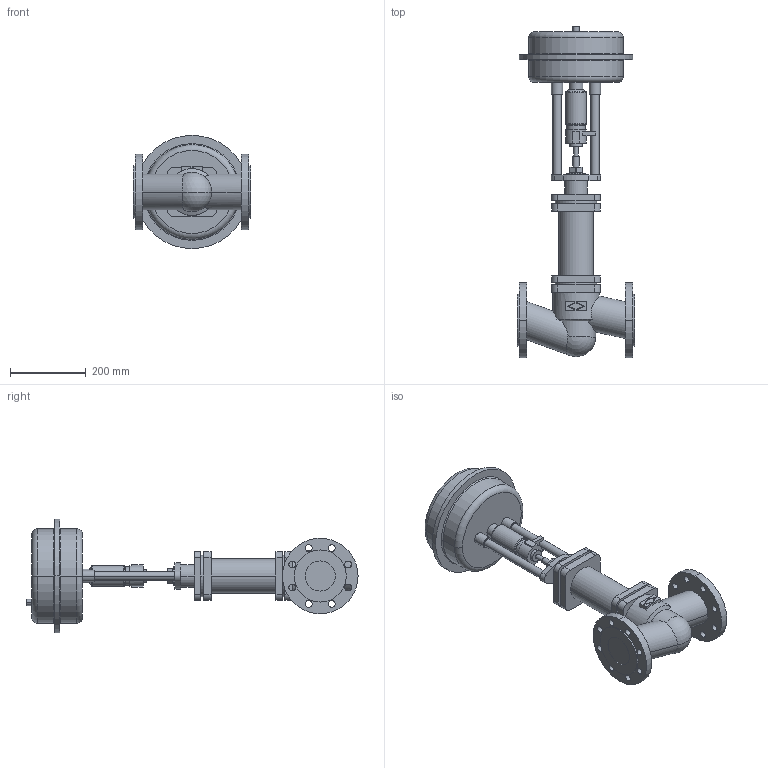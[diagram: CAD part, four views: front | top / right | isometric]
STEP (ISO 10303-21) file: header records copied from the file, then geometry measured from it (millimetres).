
FILE_DESCRIPTION(('OneSpaceDesigner STEP Export'),'2;1');
FILE_NAME('c000002081.stp','2005-12-12T11:15:33',(''),(''),'OneSpace Designer STEP processor for AP203 (Solid Model)','OneSpace Designer 13.20A 18-Aug-2005 (C) CoCreate Software GmbH','');
FILE_SCHEMA(('CONFIG_CONTROL_DESIGN'));
Length unit declared in the file: millimetre
Products named in the file (1): 1
Bounding box: 310 x 879.3 x 300 mm (x, y, z)
Volume: 14158969.1 mm3; surface area: 738416.2 mm2
Topology: 1 solids, 1 shells, 234 faces, 587 edges, 385 vertices
Faces by surface type: cylinder 120, plane 90, torus 16, cone 6, sphere 2
Entity records: 6661 total; most frequent: CARTESIAN_POINT 1327, ORIENTED_EDGE 1170, DIRECTION 989, EDGE_CURVE 585, VERTEX_POINT 385, AXIS2_PLACEMENT_3D 356, EDGE_LOOP 302, VECTOR 277
